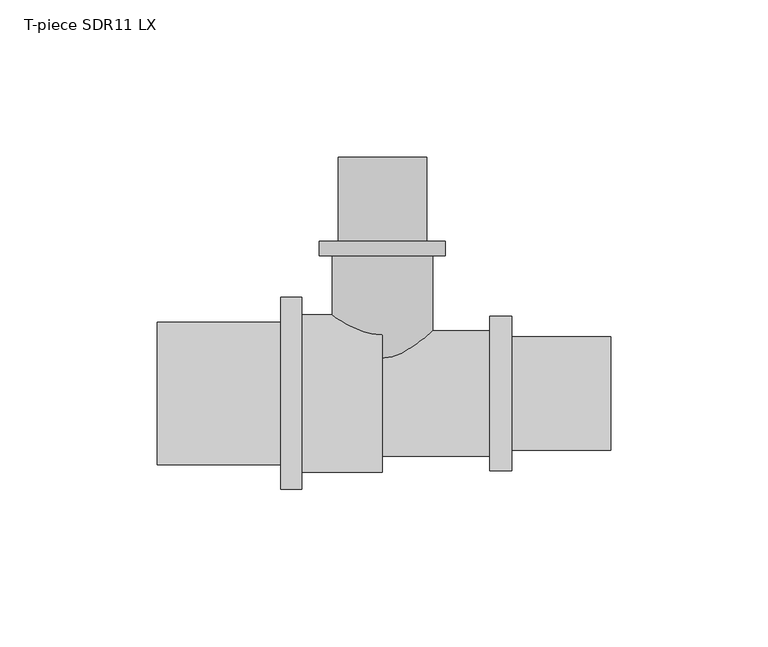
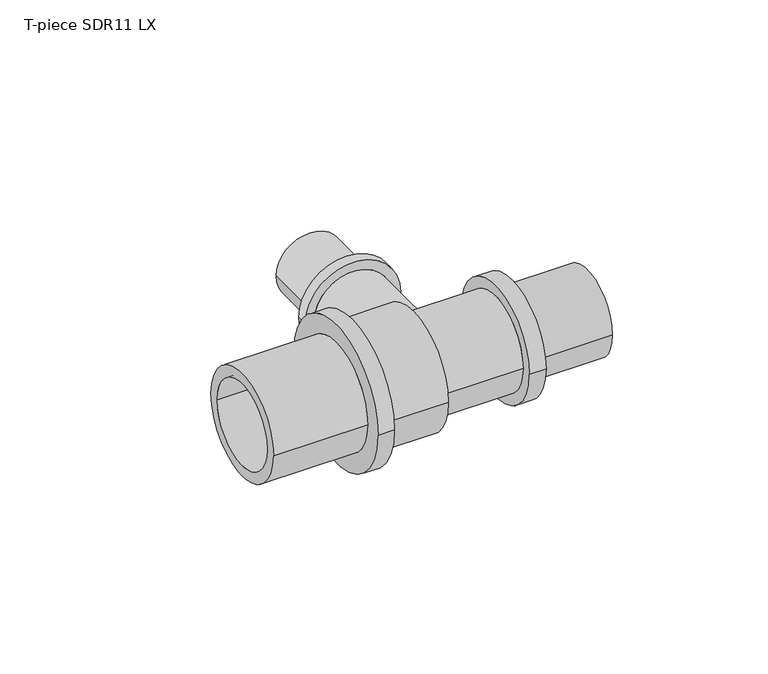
"""IFC4 building model written with IfcOpenShell, lengths in millimetres: pipe fitting geometry, T-piece SDR11 LX : T-piece LX SDR11 LX."""

from ifc_helpers import new_model, si_unit, point, frame, origin, place, context, project, spatial, polyline, circle_curve, ellipse_curve, trimmed, source, transform, mapped, element, save
from ifc_brep_helpers import plane_surface, cylinder_surface, revolved_surface, advanced_brep


def t_piece_sdr11_lx_4c8c54f7(model_context):
    return source(origin(), model_context, "Body", "AdvancedBrep", [
        advanced_brep(
        [(16.0, 1.3596649, 0.0), (-16.0, 1.3596649, 0.0), (-16.0, 43.8, 0.0), (16.0, 43.8, 0.0), (11.4, 75.0, 0.0), (-11.4, 75.0, 0.0), (-11.4, 0.0, 0.0), (11.4, 0.0, 0.0), (14.05, 48.4, 0.0), (-14.05, 48.4, 0.0), (-14.05, 75.0, 0.0), (14.05, 75.0, 0.0), (20.0, 43.8, 0.0), (-20.0, 43.8, 0.0), (-20.0, 48.4, 0.0), (20.0, 48.4, 0.0)],
        [
            (0, 1, circle_curve(frame((0.0, 1.3596649, 0.0), z_axis=(0.0, 1.0, 0.0), x_axis=(-1.0, 0.0, 0.0)), 16.0)),
            (1, 2),
            (2, 3, circle_curve(frame((0.0, 43.8, 0.0), z_axis=(0.0, -1.0, 0.0), x_axis=(-1.0, 0.0, 0.0)), 16.0)),
            (3, 0),
            (4, 5, circle_curve(frame((0.0, 75.0, 0.0), z_axis=(0.0, 1.0, 0.0), x_axis=(-1.0, 0.0, 0.0)), 11.4)),
            (5, 6),
            (6, 7, circle_curve(frame((0.0, 0.0, 0.0), z_axis=(0.0, -1.0, 0.0), x_axis=(-1.0, 0.0, 0.0)), 11.4)),
            (7, 4),
            (8, 9, circle_curve(frame((0.0, 48.4, 0.0), z_axis=(0.0, 1.0, 0.0), x_axis=(-1.0, 0.0, 0.0)), 14.05)),
            (9, 10),
            (10, 11, circle_curve(frame((0.0, 75.0, 0.0), z_axis=(0.0, -1.0, 0.0), x_axis=(-1.0, 0.0, 0.0)), 14.05)),
            (11, 8),
            (12, 13, circle_curve(frame((0.0, 43.8, 0.0), z_axis=(0.0, 1.0, 0.0), x_axis=(-1.0, 0.0, 0.0)), 20.0)),
            (13, 14),
            (14, 15, circle_curve(frame((0.0, 48.4, 0.0), z_axis=(0.0, -1.0, 0.0), x_axis=(-1.0, 0.0, 0.0)), 20.0)),
            (15, 12),
            (12, 13, circle_curve(frame((0.0, 43.8, 0.0), z_axis=(0.0, -1.0, 0.0), x_axis=(1.0, 0.0, 0.0)), 20.0)),
            (2, 3, circle_curve(frame((0.0, 43.8, 0.0), z_axis=(0.0, 1.0, 0.0), x_axis=(1.0, 0.0, 0.0)), 16.0)),
            (1, 0, circle_curve(frame((0.0, 1.3596649, 0.0), z_axis=(0.0, 1.0, 0.0), x_axis=(1.0, 0.0, 0.0)), 16.0)),
            (5, 4, circle_curve(frame((0.0, 75.0, 0.0), z_axis=(0.0, 1.0, 0.0), x_axis=(1.0, 0.0, 0.0)), 11.4)),
            (7, 6, circle_curve(frame((0.0, 0.0, 0.0), z_axis=(0.0, -1.0, 0.0), x_axis=(1.0, 0.0, 0.0)), 11.4)),
            (10, 11, circle_curve(frame((0.0, 75.0, 0.0), z_axis=(0.0, 1.0, 0.0), x_axis=(1.0, 0.0, 0.0)), 14.05)),
            (9, 8, circle_curve(frame((0.0, 48.4, 0.0), z_axis=(0.0, 1.0, 0.0), x_axis=(1.0, 0.0, 0.0)), 14.05)),
            (14, 15, circle_curve(frame((0.0, 48.4, 0.0), z_axis=(0.0, 1.0, 0.0), x_axis=(1.0, 0.0, 0.0)), 20.0)),
            (6, 1, circle_curve(frame((-6.6462802, 24.5438821, 0.0), z_axis=(0.0, 0.0, -1.0), x_axis=(0.0, -1.0, 0.0)), 25.0)),
            (0, 7, circle_curve(frame((6.6462802, 24.5438821, 0.0), z_axis=(0.0, 0.0, -1.0), x_axis=(0.0, -1.0, 0.0)), 25.0)),
        ],
        [
            cylinder_surface(frame((0.0, 0.0, 0.0), z_axis=(0.0, -1.0, 0.0), x_axis=(-1.0, 0.0, 0.0)), 16.0),
            revolved_surface(polyline([(-11.4, 0.0, 0.0), (-11.4, 75.0, 0.0)]), (0.0, 0.0, 0.0), (0.0, -1.0, 0.0)),
            cylinder_surface(frame((0.0, 0.0, 0.0), z_axis=(0.0, -1.0, 0.0), x_axis=(-1.0, 0.0, 0.0)), 14.05),
            cylinder_surface(frame((0.0, 0.0, 0.0), z_axis=(0.0, -1.0, 0.0), x_axis=(-1.0, 0.0, 0.0)), 20.0),
            plane_surface(frame((0.0, 43.8, 0.0), z_axis=(0.0, -1.0, 0.0), x_axis=(1.0, 0.0, 0.0))),
            cylinder_surface(frame((0.0, 0.0, 0.0), z_axis=(0.0, -1.0, 0.0), x_axis=(1.0, 0.0, 0.0)), 16.0),
            revolved_surface(polyline([(11.4, 0.0, 0.0), (11.4, 75.0, 0.0)]), (0.0, 0.0, 0.0), (0.0, -1.0, 0.0)),
            plane_surface(frame((0.0, 75.0, 0.0), z_axis=(0.0, 1.0, 0.0), x_axis=(1.0, 0.0, 0.0))),
            cylinder_surface(frame((0.0, 0.0, 0.0), z_axis=(0.0, -1.0, 0.0), x_axis=(1.0, 0.0, 0.0)), 14.05),
            plane_surface(frame((0.0, 48.4, 0.0), z_axis=(0.0, 1.0, 0.0), x_axis=(1.0, 0.0, 0.0))),
            cylinder_surface(frame((0.0, 0.0, 0.0), z_axis=(0.0, -1.0, 0.0), x_axis=(1.0, 0.0, 0.0)), 20.0),
            revolved_surface(trimmed(ellipse_curve(frame((-6.6462802, 24.5438821, 0.0), z_axis=(0.0, 0.0, 1.0), x_axis=(0.0, -1.0, 0.0)), 25.0, 25.0), [point((-16.0, 1.3596649, 0.0))], [point((-11.4, 0.0, 0.0))], True, "CARTESIAN"), (0.0, 0.0, 0.0), (0.0, -1.0, 0.0)),
            revolved_surface(trimmed(ellipse_curve(frame((6.6462802, 24.5438821, 0.0), z_axis=(0.0, 0.0, -1.0), x_axis=(0.0, -1.0, 0.0)), 25.0, 25.0), [point((16.0, 1.3596649, 0.0))], [point((11.4, 0.0, 0.0))], True, "CARTESIAN"), (0.0, 0.0, 0.0), (0.0, -1.0, 0.0)),
        ],
        [
            (0, [[1, 2, 3, 4]]),
            (1, [[5, 6, 7, 8]]),
            (2, [[9, 10, 11, 12]]),
            (3, [[13, 14, 15, 16]]),
            (4, [[17, -13], [18, -3]]),
            (5, [[19, -4, -18, -2]]),
            (6, [[20, -8, 21, -6]]),
            (7, [[22, -11], [-20, -5]]),
            (8, [[23, -12, -22, -10]]),
            (9, [[24, -15], [-23, -9]]),
            (10, [[-17, -16, -24, -14]]),
            (11, [[-7, 25, -1, 26]]),
            (12, [[-21, -26, -19, -25]]),
        ],
    ),
        advanced_brep(
        [(34.1, 20.0, 0.0), (34.1, -20.0, 0.0), (0.0, -20.0, 0.0), (0.0, 20.0, 0.0), (0.0, 13.9, 0.0), (0.0, -13.9, 0.0), (72.5, -13.9, 0.0), (72.5, 13.9, 0.0), (72.5, 18.05, 0.0), (72.5, -18.05, 0.0), (41.1, -18.05, 0.0), (41.1, 18.05, 0.0), (41.1, 24.5, 0.0), (41.1, -24.5, 0.0), (34.1, -24.5, 0.0), (34.1, 24.5, 0.0)],
        [
            (0, 1, circle_curve(frame((34.1, 0.0, 0.0), z_axis=(-1.0, 0.0, 0.0), x_axis=(0.0, -1.0, 0.0)), 20.0)),
            (1, 2),
            (2, 3, circle_curve(frame((0.0, 0.0, 0.0), z_axis=(1.0, 0.0, 0.0), x_axis=(0.0, -1.0, 0.0)), 20.0)),
            (3, 0),
            (4, 5, circle_curve(frame((0.0, 0.0, 0.0), z_axis=(-1.0, 0.0, 0.0), x_axis=(0.0, -1.0, 0.0)), 13.9)),
            (5, 6),
            (6, 7, circle_curve(frame((72.5, 0.0, 0.0), z_axis=(1.0, 0.0, 0.0), x_axis=(0.0, -1.0, 0.0)), 13.9)),
            (7, 4),
            (8, 9, circle_curve(frame((72.5, 0.0, 0.0), z_axis=(-1.0, 0.0, 0.0), x_axis=(0.0, -1.0, 0.0)), 18.05)),
            (9, 10),
            (10, 11, circle_curve(frame((41.1, 0.0, 0.0), z_axis=(1.0, 0.0, 0.0), x_axis=(0.0, -1.0, 0.0)), 18.05)),
            (11, 8),
            (12, 13, circle_curve(frame((41.1, 0.0, 0.0), z_axis=(-1.0, 0.0, 0.0), x_axis=(0.0, -1.0, 0.0)), 24.5)),
            (13, 14),
            (14, 15, circle_curve(frame((34.1, 0.0, 0.0), z_axis=(1.0, 0.0, 0.0), x_axis=(0.0, -1.0, 0.0)), 24.5)),
            (15, 12),
            (14, 15, circle_curve(frame((34.1, 0.0, 0.0), z_axis=(-1.0, 0.0, 0.0), x_axis=(0.0, 1.0, 0.0)), 24.5)),
            (0, 1, circle_curve(frame((34.1, 0.0, 0.0), z_axis=(1.0, 0.0, 0.0), x_axis=(0.0, 1.0, 0.0)), 20.0)),
            (3, 2, circle_curve(frame((0.0, 0.0, 0.0), z_axis=(1.0, 0.0, 0.0), x_axis=(0.0, 1.0, 0.0)), 20.0)),
            (4, 5, circle_curve(frame((0.0, 0.0, 0.0), z_axis=(1.0, 0.0, 0.0), x_axis=(0.0, 1.0, 0.0)), 13.9)),
            (7, 6, circle_curve(frame((72.5, 0.0, 0.0), z_axis=(1.0, 0.0, 0.0), x_axis=(0.0, 1.0, 0.0)), 13.9)),
            (8, 9, circle_curve(frame((72.5, 0.0, 0.0), z_axis=(1.0, 0.0, 0.0), x_axis=(0.0, 1.0, 0.0)), 18.05)),
            (11, 10, circle_curve(frame((41.1, 0.0, 0.0), z_axis=(1.0, 0.0, 0.0), x_axis=(0.0, 1.0, 0.0)), 18.05)),
            (12, 13, circle_curve(frame((41.1, 0.0, 0.0), z_axis=(1.0, 0.0, 0.0), x_axis=(0.0, 1.0, 0.0)), 24.5)),
        ],
        [
            cylinder_surface(frame((0.0, 0.0, 0.0), z_axis=(1.0, 0.0, 0.0), x_axis=(0.0, -1.0, 0.0)), 20.0),
            revolved_surface(polyline([(72.5, -13.9, 0.0), (0.0, -13.9, 0.0)]), (0.0, 0.0, 0.0), (1.0, 0.0, 0.0)),
            cylinder_surface(frame((0.0, 0.0, 0.0), z_axis=(1.0, 0.0, 0.0), x_axis=(0.0, -1.0, 0.0)), 18.05),
            cylinder_surface(frame((0.0, 0.0, 0.0), z_axis=(1.0, 0.0, 0.0), x_axis=(0.0, -1.0, 0.0)), 24.5),
            plane_surface(frame((34.1, 0.0, 0.0), z_axis=(-1.0, 0.0, 0.0), x_axis=(0.0, 1.0, 0.0))),
            cylinder_surface(frame((0.0, 0.0, 0.0), z_axis=(1.0, 0.0, 0.0), x_axis=(0.0, 1.0, 0.0)), 20.0),
            plane_surface(frame((0.0, 0.0, 0.0), z_axis=(-1.0, 0.0, 0.0), x_axis=(0.0, 1.0, 0.0))),
            revolved_surface(polyline([(72.5, 13.9, 0.0), (0.0, 13.9, 0.0)]), (0.0, 0.0, 0.0), (1.0, 0.0, 0.0)),
            plane_surface(frame((72.5, 0.0, 0.0), z_axis=(1.0, 0.0, 0.0), x_axis=(0.0, 1.0, 0.0))),
            cylinder_surface(frame((0.0, 0.0, 0.0), z_axis=(1.0, 0.0, 0.0), x_axis=(0.0, 1.0, 0.0)), 18.05),
            plane_surface(frame((41.1, 0.0, 0.0), z_axis=(1.0, 0.0, 0.0), x_axis=(0.0, 1.0, 0.0))),
            cylinder_surface(frame((0.0, 0.0, 0.0), z_axis=(1.0, 0.0, 0.0), x_axis=(0.0, 1.0, 0.0)), 24.5),
        ],
        [
            (0, [[1, 2, 3, 4]]),
            (1, [[5, 6, 7, 8]]),
            (2, [[9, 10, 11, 12]]),
            (3, [[13, 14, 15, 16]]),
            (4, [[17, -15], [18, -1]]),
            (5, [[-18, -4, 19, -2]]),
            (6, [[-19, -3], [20, -5]]),
            (7, [[-20, -8, 21, -6]]),
            (8, [[22, -9], [-21, -7]]),
            (9, [[-22, -12, 23, -10]]),
            (10, [[24, -13], [-23, -11]]),
            (11, [[-24, -16, -17, -14]]),
        ],
    ),
        advanced_brep(
        [(0.0, 25.0, 0.0), (0.0, -25.0, 0.0), (-25.6, -25.0, 0.0), (-25.6, 25.0, 0.0), (-71.5, 18.0, 0.0), (-71.5, -18.0, 0.0), (0.0, -18.0, 0.0), (0.0, 18.0, 0.0), (-32.3, 22.65, 0.0), (-32.3, -22.65, 0.0), (-71.5, -22.65, 0.0), (-71.5, 22.65, 0.0), (-25.6, 30.5, 0.0), (-25.6, -30.5, 0.0), (-32.3, -30.5, 0.0), (-32.3, 30.5, 0.0)],
        [
            (0, 1, circle_curve(frame((0.0, 0.0, 0.0), z_axis=(-1.0, 0.0, 0.0), x_axis=(0.0, -1.0, 0.0)), 25.0)),
            (1, 2),
            (2, 3, circle_curve(frame((-25.6, 0.0, 0.0), z_axis=(1.0, 0.0, 0.0), x_axis=(0.0, -1.0, 0.0)), 25.0)),
            (3, 0),
            (4, 5, circle_curve(frame((-71.5, 0.0, 0.0), z_axis=(-1.0, 0.0, 0.0), x_axis=(0.0, -1.0, 0.0)), 18.0)),
            (5, 6),
            (6, 7, circle_curve(frame((0.0, 0.0, 0.0), z_axis=(1.0, 0.0, 0.0), x_axis=(0.0, -1.0, 0.0)), 18.0)),
            (7, 4),
            (8, 9, circle_curve(frame((-32.3, 0.0, 0.0), z_axis=(-1.0, 0.0, 0.0), x_axis=(0.0, -1.0, 0.0)), 22.65)),
            (9, 10),
            (10, 11, circle_curve(frame((-71.5, 0.0, 0.0), z_axis=(1.0, 0.0, 0.0), x_axis=(0.0, -1.0, 0.0)), 22.65)),
            (11, 8),
            (12, 13, circle_curve(frame((-25.6, 0.0, 0.0), z_axis=(-1.0, 0.0, 0.0), x_axis=(0.0, -1.0, 0.0)), 30.5)),
            (13, 14),
            (14, 15, circle_curve(frame((-32.3, 0.0, 0.0), z_axis=(1.0, 0.0, 0.0), x_axis=(0.0, -1.0, 0.0)), 30.5)),
            (15, 12),
            (12, 13, circle_curve(frame((-25.6, 0.0, 0.0), z_axis=(1.0, 0.0, 0.0), x_axis=(0.0, 1.0, 0.0)), 30.5)),
            (2, 3, circle_curve(frame((-25.6, 0.0, 0.0), z_axis=(-1.0, 0.0, 0.0), x_axis=(0.0, 1.0, 0.0)), 25.0)),
            (1, 0, circle_curve(frame((0.0, 0.0, 0.0), z_axis=(-1.0, 0.0, 0.0), x_axis=(0.0, 1.0, 0.0)), 25.0)),
            (6, 7, circle_curve(frame((0.0, 0.0, 0.0), z_axis=(-1.0, 0.0, 0.0), x_axis=(0.0, 1.0, 0.0)), 18.0)),
            (5, 4, circle_curve(frame((-71.5, 0.0, 0.0), z_axis=(-1.0, 0.0, 0.0), x_axis=(0.0, 1.0, 0.0)), 18.0)),
            (10, 11, circle_curve(frame((-71.5, 0.0, 0.0), z_axis=(-1.0, 0.0, 0.0), x_axis=(0.0, 1.0, 0.0)), 22.65)),
            (9, 8, circle_curve(frame((-32.3, 0.0, 0.0), z_axis=(-1.0, 0.0, 0.0), x_axis=(0.0, 1.0, 0.0)), 22.65)),
            (14, 15, circle_curve(frame((-32.3, 0.0, 0.0), z_axis=(-1.0, 0.0, 0.0), x_axis=(0.0, 1.0, 0.0)), 30.5)),
        ],
        [
            cylinder_surface(frame((0.0, 0.0, 0.0), z_axis=(1.0, 0.0, 0.0), x_axis=(0.0, -1.0, 0.0)), 25.0),
            revolved_surface(polyline([(0.0, -18.0, 0.0), (-71.5, -18.0, 0.0)]), (0.0, 0.0, 0.0), (1.0, 0.0, 0.0)),
            cylinder_surface(frame((0.0, 0.0, 0.0), z_axis=(1.0, 0.0, 0.0), x_axis=(0.0, -1.0, 0.0)), 22.65),
            cylinder_surface(frame((0.0, 0.0, 0.0), z_axis=(1.0, 0.0, 0.0), x_axis=(0.0, -1.0, 0.0)), 30.5),
            plane_surface(frame((-25.6, 0.0, 0.0), z_axis=(1.0, 0.0, 0.0), x_axis=(0.0, 1.0, 0.0))),
            cylinder_surface(frame((0.0, 0.0, 0.0), z_axis=(1.0, 0.0, 0.0), x_axis=(0.0, 1.0, 0.0)), 25.0),
            plane_surface(frame((0.0, 0.0, 0.0), z_axis=(1.0, 0.0, 0.0), x_axis=(0.0, 1.0, 0.0))),
            revolved_surface(polyline([(0.0, 18.0, 0.0), (-71.5, 18.0, 0.0)]), (0.0, 0.0, 0.0), (1.0, 0.0, 0.0)),
            plane_surface(frame((-71.5, 0.0, 0.0), z_axis=(-1.0, 0.0, 0.0), x_axis=(0.0, 1.0, 0.0))),
            cylinder_surface(frame((0.0, 0.0, 0.0), z_axis=(1.0, 0.0, 0.0), x_axis=(0.0, 1.0, 0.0)), 22.65),
            plane_surface(frame((-32.3, 0.0, 0.0), z_axis=(-1.0, 0.0, 0.0), x_axis=(0.0, 1.0, 0.0))),
            cylinder_surface(frame((0.0, 0.0, 0.0), z_axis=(1.0, 0.0, 0.0), x_axis=(0.0, 1.0, 0.0)), 30.5),
        ],
        [
            (0, [[1, 2, 3, 4]]),
            (1, [[5, 6, 7, 8]]),
            (2, [[9, 10, 11, 12]]),
            (3, [[13, 14, 15, 16]]),
            (4, [[17, -13], [18, -3]]),
            (5, [[19, -4, -18, -2]]),
            (6, [[-19, -1], [20, -7]]),
            (7, [[21, -8, -20, -6]]),
            (8, [[22, -11], [-21, -5]]),
            (9, [[23, -12, -22, -10]]),
            (10, [[24, -15], [-23, -9]]),
            (11, [[-17, -16, -24, -14]]),
        ],
    ),
    ])


if __name__ == "__main__":
    model = new_model("IFC4")
    model_context = context("Model", 3, world=origin())
    ifc_project = project(units=[si_unit("LENGTHUNIT", "METRE", prefix="MILLI")], contexts=[model_context])
    site = spatial("IfcSite", under=ifc_project)
    building = spatial("IfcBuilding", under=site)
    placement = place(None, origin())
    t_piece_sdr11_lx_shape = t_piece_sdr11_lx_4c8c54f7(model_context)
    element("IfcPipeFitting", 1, ObjectType="T-piece SDR11 LX : T-piece LX SDR11 LX", at=placement, inside=building, context=model_context, shape_type="MappedRepresentation", body=[
        mapped(t_piece_sdr11_lx_shape, transform((0.0, 0.0, 0.0), x_axis=(1.0, 0.0, 0.0), y_axis=(0.0, 1.0, 0.0), z_axis=(0.0, 0.0, 1.0))),
    ])
    save(model, "model.ifc")
